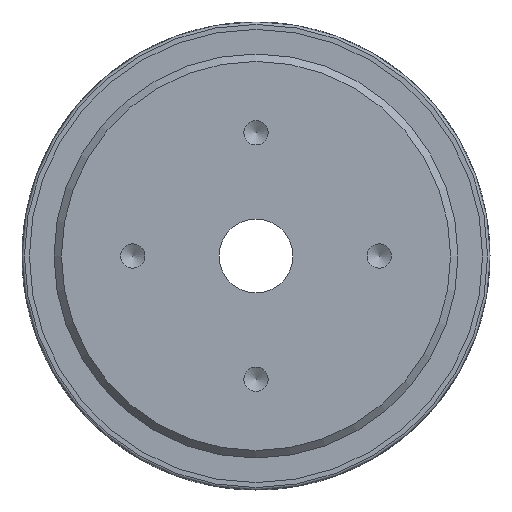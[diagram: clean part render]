
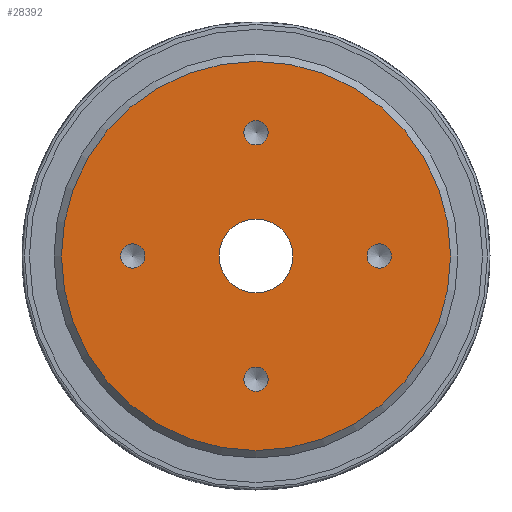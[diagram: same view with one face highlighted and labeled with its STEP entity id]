
A CAD part, left-side view. The second image highlights one B-rep face of the part: STEP entity #28392.
In plain terms, the highlighted planar face has unit normal (-1, 0, 0).
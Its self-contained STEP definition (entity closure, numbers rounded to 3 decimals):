
#1971=FACE_BOUND('',#5663,.T.);
#1972=FACE_BOUND('',#5664,.T.);
#1973=FACE_BOUND('',#5665,.T.);
#1974=FACE_BOUND('',#5666,.T.);
#1975=FACE_BOUND('',#5667,.T.);
#2694=PLANE('',#31208);
#4120=FACE_OUTER_BOUND('',#5662,.T.);
#5662=EDGE_LOOP('',(#22076));
#5663=EDGE_LOOP('',(#22077));
#5664=EDGE_LOOP('',(#22078));
#5665=EDGE_LOOP('',(#22079));
#5666=EDGE_LOOP('',(#22080));
#5667=EDGE_LOOP('',(#22081));
#6942=CIRCLE('',#31207,39.5);
#6943=CIRCLE('',#31209,7.5);
#6944=CIRCLE('',#31210,2.459);
#6945=CIRCLE('',#31211,2.459);
#6946=CIRCLE('',#31212,2.459);
#6947=CIRCLE('',#31213,2.459);
#12060=VERTEX_POINT('',#47663);
#12061=VERTEX_POINT('',#47666);
#12062=VERTEX_POINT('',#47668);
#12063=VERTEX_POINT('',#47670);
#12064=VERTEX_POINT('',#47672);
#12065=VERTEX_POINT('',#47674);
#15675=EDGE_CURVE('',#12060,#12060,#6942,.T.);
#15676=EDGE_CURVE('',#12061,#12061,#6943,.T.);
#15677=EDGE_CURVE('',#12062,#12062,#6944,.T.);
#15678=EDGE_CURVE('',#12063,#12063,#6945,.T.);
#15679=EDGE_CURVE('',#12064,#12064,#6946,.T.);
#15680=EDGE_CURVE('',#12065,#12065,#6947,.T.);
#22076=ORIENTED_EDGE('',*,*,#15675,.F.);
#22077=ORIENTED_EDGE('',*,*,#15676,.T.);
#22078=ORIENTED_EDGE('',*,*,#15677,.T.);
#22079=ORIENTED_EDGE('',*,*,#15678,.T.);
#22080=ORIENTED_EDGE('',*,*,#15679,.T.);
#22081=ORIENTED_EDGE('',*,*,#15680,.T.);
#28392=ADVANCED_FACE('',(#4120,#1971,#1972,#1973,#1974,#1975),#2694,.T.);
#31207=AXIS2_PLACEMENT_3D('',#47664,#38085,#38086);
#31208=AXIS2_PLACEMENT_3D('',#47665,#38087,#38088);
#31209=AXIS2_PLACEMENT_3D('',#47667,#38089,#38090);
#31210=AXIS2_PLACEMENT_3D('',#47669,#38091,#38092);
#31211=AXIS2_PLACEMENT_3D('',#47671,#38093,#38094);
#31212=AXIS2_PLACEMENT_3D('',#47673,#38095,#38096);
#31213=AXIS2_PLACEMENT_3D('',#47675,#38097,#38098);
#38085=DIRECTION('center_axis',(1.,0.,0.));
#38086=DIRECTION('ref_axis',(0.,-1.,0.));
#38087=DIRECTION('center_axis',(-1.,0.,0.));
#38088=DIRECTION('ref_axis',(0.,0.,1.));
#38089=DIRECTION('center_axis',(1.,0.,0.));
#38090=DIRECTION('ref_axis',(0.,1.,0.));
#38091=DIRECTION('center_axis',(1.,0.,0.));
#38092=DIRECTION('ref_axis',(0.,0.,1.));
#38093=DIRECTION('center_axis',(1.,0.,0.));
#38094=DIRECTION('ref_axis',(0.,0.,1.));
#38095=DIRECTION('center_axis',(1.,0.,0.));
#38096=DIRECTION('ref_axis',(0.,0.,1.));
#38097=DIRECTION('center_axis',(1.,0.,0.));
#38098=DIRECTION('ref_axis',(0.,0.,1.));
#47663=CARTESIAN_POINT('',(-11.5,39.5,0.));
#47664=CARTESIAN_POINT('Origin',(-11.5,0.,0.));
#47665=CARTESIAN_POINT('Origin',(-11.5,24.25,0.));
#47666=CARTESIAN_POINT('',(-11.5,7.5,0.));
#47667=CARTESIAN_POINT('Origin',(-11.5,0.,0.));
#47668=CARTESIAN_POINT('',(-11.5,25.,2.459));
#47669=CARTESIAN_POINT('Origin',(-11.5,25.,0.));
#47670=CARTESIAN_POINT('',(-11.5,0.,-22.542));
#47671=CARTESIAN_POINT('Origin',(-11.5,0.,-25.));
#47672=CARTESIAN_POINT('',(-11.5,-25.,2.459));
#47673=CARTESIAN_POINT('Origin',(-11.5,-25.,0.));
#47674=CARTESIAN_POINT('',(-11.5,0.,27.459));
#47675=CARTESIAN_POINT('Origin',(-11.5,0.,25.));
